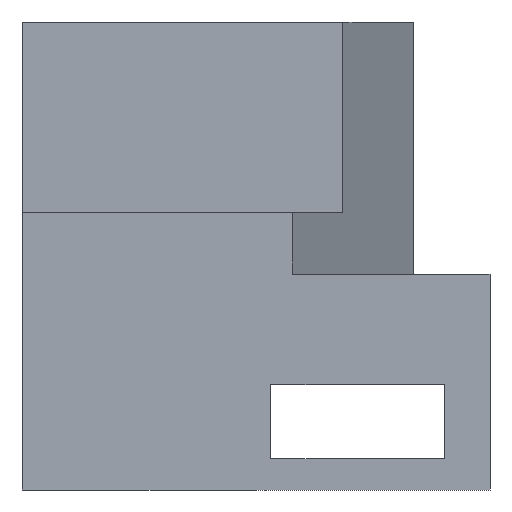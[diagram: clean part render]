
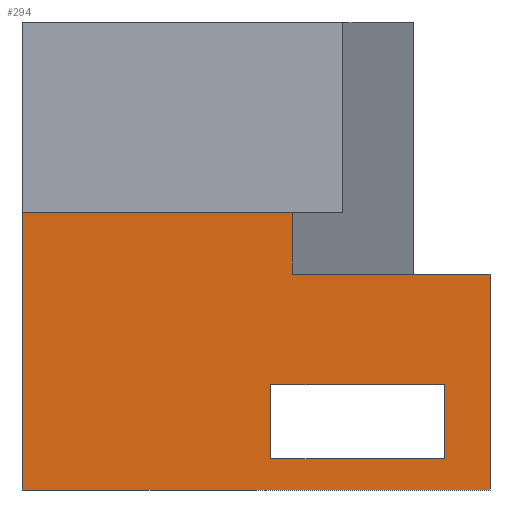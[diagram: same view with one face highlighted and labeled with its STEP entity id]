
A CAD part, left-side view. The second image highlights one B-rep face of the part: STEP entity #294.
In plain terms, the highlighted planar face has unit normal (-1, 0, 0).
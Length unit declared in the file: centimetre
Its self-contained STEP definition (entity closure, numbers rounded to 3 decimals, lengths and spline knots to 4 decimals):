
#1 = EDGE_CURVE ( 'NONE', #309, #190, #141, .T. ) ;
#3 = VERTEX_POINT ( 'NONE', #107 ) ;
#13 = LINE ( 'NONE', #210, #175 ) ;
#24 = EDGE_LOOP ( 'NONE', ( #429, #41, #451, #123, #371, #431 ) ) ;
#26 = LINE ( 'NONE', #103, #75 ) ;
#36 = ORIENTED_EDGE ( 'NONE', *, *, #421, .T. ) ;
#41 = ORIENTED_EDGE ( 'NONE', *, *, #496, .T. ) ;
#45 = LINE ( 'NONE', #204, #95 ) ;
#50 = DIRECTION ( 'NONE',  ( 0., -1., 0. ) ) ;
#55 = CARTESIAN_POINT ( 'NONE',  ( 0., 468.2481, 225.407 ) ) ;
#62 = DIRECTION ( 'NONE',  ( 0., 0., -1. ) ) ;
#66 = VECTOR ( 'NONE', #228, 100. ) ;
#75 = VECTOR ( 'NONE', #337, 100. ) ;
#80 = CARTESIAN_POINT ( 'NONE',  ( 0., 1000., 593.4852 ) ) ;
#94 = VECTOR ( 'NONE', #505, 100. ) ;
#95 = VECTOR ( 'NONE', #241, 100. ) ;
#103 = CARTESIAN_POINT ( 'NONE',  ( 0., 468.2481, 67.1605 ) ) ;
#107 = CARTESIAN_POINT ( 'NONE',  ( 0., 0., 0. ) ) ;
#123 = ORIENTED_EDGE ( 'NONE', *, *, #340, .T. ) ;
#127 = LINE ( 'NONE', #499, #94 ) ;
#135 = CARTESIAN_POINT ( 'NONE',  ( 0., 1000., 0. ) ) ;
#141 = LINE ( 'NONE', #454, #484 ) ;
#146 = EDGE_CURVE ( 'NONE', #158, #3, #165, .T. ) ;
#149 = CARTESIAN_POINT ( 'NONE',  ( 0., 1000., 1000. ) ) ;
#158 = VERTEX_POINT ( 'NONE', #135 ) ;
#165 = LINE ( 'NONE', #285, #229 ) ;
#166 = VERTEX_POINT ( 'NONE', #205 ) ;
#175 = VECTOR ( 'NONE', #481, 100. ) ;
#176 = ORIENTED_EDGE ( 'NONE', *, *, #319, .T. ) ;
#184 = CARTESIAN_POINT ( 'NONE',  ( 0., 422.3855, 593.4852 ) ) ;
#188 = VECTOR ( 'NONE', #62, 100. ) ;
#190 = VERTEX_POINT ( 'NONE', #443 ) ;
#204 = CARTESIAN_POINT ( 'NONE',  ( 0., 422.3855, 461.1475 ) ) ;
#205 = CARTESIAN_POINT ( 'NONE',  ( 0., 0., 461.1475 ) ) ;
#210 = CARTESIAN_POINT ( 'NONE',  ( 0., 1000., 593.4852 ) ) ;
#223 = DIRECTION ( 'NONE',  ( 1., 0., 0. ) ) ;
#224 = VECTOR ( 'NONE', #50, 100. ) ;
#228 = DIRECTION ( 'NONE',  ( 0., 1., 0. ) ) ;
#229 = VECTOR ( 'NONE', #247, 100. ) ;
#233 = EDGE_CURVE ( 'NONE', #347, #271, #13, .T. ) ;
#240 = VERTEX_POINT ( 'NONE', #55 ) ;
#241 = DIRECTION ( 'NONE',  ( 0., -1., 0. ) ) ;
#247 = DIRECTION ( 'NONE',  ( 0., -1., 0. ) ) ;
#257 = FACE_BOUND ( 'NONE', #356, .T. ) ;
#258 = DIRECTION ( 'NONE',  ( 0., 0., -1. ) ) ;
#262 = CARTESIAN_POINT ( 'NONE',  ( 0., 422.3855, 461.1475 ) ) ;
#264 = CARTESIAN_POINT ( 'NONE',  ( 0., 97.0669, 225.407 ) ) ;
#267 = VERTEX_POINT ( 'NONE', #262 ) ;
#270 = ORIENTED_EDGE ( 'NONE', *, *, #1, .T. ) ;
#271 = VERTEX_POINT ( 'NONE', #184 ) ;
#272 = LINE ( 'NONE', #432, #453 ) ;
#285 = CARTESIAN_POINT ( 'NONE',  ( 0., 1000., 0. ) ) ;
#294 = ADVANCED_FACE ( 'NONE', ( #257, #414 ), #449, .F. ) ;
#296 = EDGE_CURVE ( 'NONE', #166, #3, #457, .T. ) ;
#301 = DIRECTION ( 'NONE',  ( 0., 0., -1. ) ) ;
#309 = VERTEX_POINT ( 'NONE', #264 ) ;
#319 = EDGE_CURVE ( 'NONE', #416, #240, #26, .T. ) ;
#323 = DIRECTION ( 'NONE',  ( 0., 0., 1. ) ) ;
#337 = DIRECTION ( 'NONE',  ( 0., 0., 1. ) ) ;
#339 = CARTESIAN_POINT ( 'NONE',  ( 0., 0., 1000. ) ) ;
#340 = EDGE_CURVE ( 'NONE', #347, #158, #127, .T. ) ;
#347 = VERTEX_POINT ( 'NONE', #80 ) ;
#352 = LINE ( 'NONE', #469, #66 ) ;
#356 = EDGE_LOOP ( 'NONE', ( #270, #36, #176, #467 ) ) ;
#371 = ORIENTED_EDGE ( 'NONE', *, *, #146, .T. ) ;
#398 = LINE ( 'NONE', #438, #224 ) ;
#414 = FACE_OUTER_BOUND ( 'NONE', #24, .T. ) ;
#416 = VERTEX_POINT ( 'NONE', #424 ) ;
#421 = EDGE_CURVE ( 'NONE', #190, #416, #352, .T. ) ;
#424 = CARTESIAN_POINT ( 'NONE',  ( 0., 468.2481, 67.1605 ) ) ;
#427 = AXIS2_PLACEMENT_3D ( 'NONE', #149, #223, #301 ) ;
#429 = ORIENTED_EDGE ( 'NONE', *, *, #433, .F. ) ;
#431 = ORIENTED_EDGE ( 'NONE', *, *, #296, .F. ) ;
#432 = CARTESIAN_POINT ( 'NONE',  ( 0., 422.3855, 461.1475 ) ) ;
#433 = EDGE_CURVE ( 'NONE', #267, #166, #45, .T. ) ;
#438 = CARTESIAN_POINT ( 'NONE',  ( 0., 97.0669, 225.407 ) ) ;
#443 = CARTESIAN_POINT ( 'NONE',  ( 0., 97.0669, 67.1605 ) ) ;
#449 = PLANE ( 'NONE',  #427 ) ;
#451 = ORIENTED_EDGE ( 'NONE', *, *, #233, .F. ) ;
#453 = VECTOR ( 'NONE', #323, 100. ) ;
#454 = CARTESIAN_POINT ( 'NONE',  ( 0., 97.0669, 67.1605 ) ) ;
#457 = LINE ( 'NONE', #339, #188 ) ;
#467 = ORIENTED_EDGE ( 'NONE', *, *, #472, .T. ) ;
#469 = CARTESIAN_POINT ( 'NONE',  ( 0., 97.0669, 67.1605 ) ) ;
#472 = EDGE_CURVE ( 'NONE', #240, #309, #398, .T. ) ;
#481 = DIRECTION ( 'NONE',  ( 0., -1., 0. ) ) ;
#484 = VECTOR ( 'NONE', #258, 100. ) ;
#496 = EDGE_CURVE ( 'NONE', #267, #271, #272, .T. ) ;
#499 = CARTESIAN_POINT ( 'NONE',  ( 0., 1000., 1000. ) ) ;
#505 = DIRECTION ( 'NONE',  ( 0., 0., -1. ) ) ;
